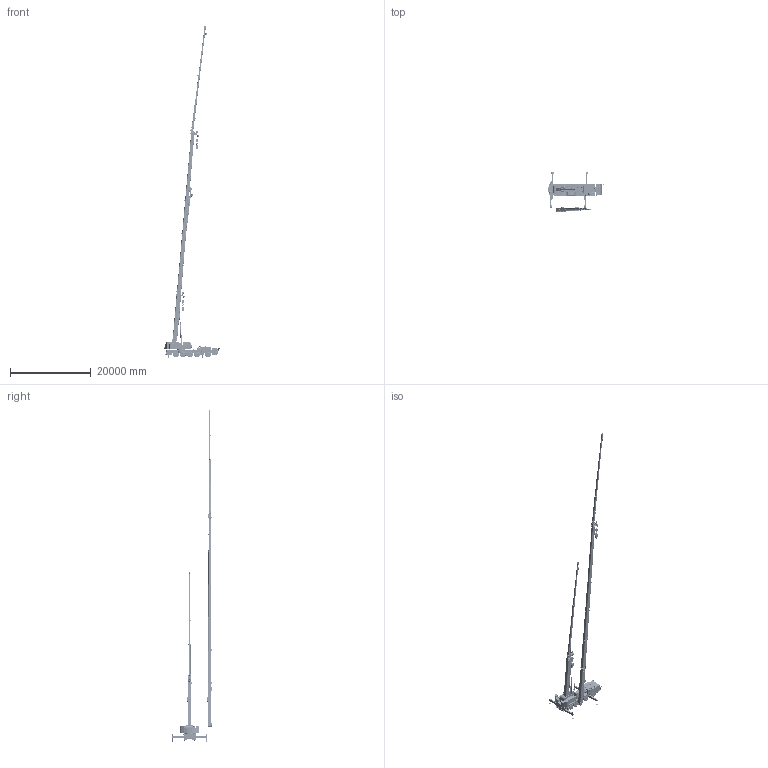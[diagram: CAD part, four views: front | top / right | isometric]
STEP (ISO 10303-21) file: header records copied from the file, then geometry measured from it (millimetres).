
FILE_DESCRIPTION(('CATIA V5 STEP Exchange','CAx-IF Rec.Pracs.--- Model Styling and Organization---1.4--- 2014-01-23'),'2;1');
FILE_NAME('\\Iba001\cad\CR\HP用CADデータ\721_803\KA-1300R 3D.stp','2019-05-20T00:00:24+00:00',('none'),('none'),'CATIA Version 5-6 Release 2017 SP5 HF19','CATIA V5 STEP AP214','none');
FILE_SCHEMA(('AUTOMOTIVE_DESIGN { 1 0 10303 214 1 1 1 1 }'));
Products named in the file (53): KA-1300R 3D; KA-1300R UPPER; 721 Table; 721 Cab Tilt; 721 Cab; 721 Mashine Room; 721 m.r-RS; 721 m.r-LS; 721 Counter Weight; 721 Base; 721 w.c-8; 721 w.c; 721 w.c-L; 721 w.c-R; 721 w.c-821; KA-1300R BOOM; KA-1300R BOOM Min; KA-1300R BOOM_1; KA-1300R BOOM_2; KA-1300R BOOM_3; KA-1300R BOOM_4; KA-1300R BOOM_5; KA-1300R BOOM_6; KA-1300R BASE BRACKET; KA-1300R JIB; KA1300R JIB BASE BRACKET; KA-1300R JIB XYZ; KA-1300R JIB DERRIKC CYL TUBE; KA-1300R JIB DERRIKC CYL ROD; KA-1300R JIB_1; KA-1300R JIB_2; KA-1300R JIB_3; KA-1300R JIB_4; KA-1300R BOOM Max ; KA-1300R CARRIER; KA-1300R CHASSIS; KA-1300R CAB; KA-1300R R-BUMPER; KA-1300R Beam-F; KA-1300R Beam-F OUTER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
Assembly tree (76 placements, depth 4):
  KA-1300R 3D
    KA-1300R UPPER
      721 Table
      721 Cab Tilt
      721 Cab
      721 Mashine Room
        721 m.r-RS
        721 m.r-LS
      721 Counter Weight
        721 Base
        721 w.c-8
        721 w.c
        721 w.c-L
        721 w.c-R
        721 w.c-821
    KA-1300R BOOM
      KA-1300R BOOM Min
        KA-1300R BOOM_1
        KA-1300R BOOM_2
        KA-1300R BOOM_3
        KA-1300R BOOM_4
        KA-1300R BOOM_5
        KA-1300R BOOM_6
        KA-1300R BASE BRACKET
      KA-1300R JIB  x2
        KA1300R JIB BASE BRACKET
        KA-1300R JIB XYZ
        KA-1300R JIB DERRIKC CYL TUBE
        KA-1300R JIB DERRIKC CYL ROD
        KA-1300R JIB_1
        KA-1300R JIB_2
        KA-1300R JIB_3
        KA-1300R JIB_4
      KA-1300R BOOM Max 
        KA-1300R BOOM_1
        KA-1300R BOOM_2
        KA-1300R BOOM_3
        KA-1300R BOOM_4
        KA-1300R BOOM_5
        KA-1300R BOOM_6
        KA-1300R BASE BRACKET
    KA-1300R CARRIER
      KA-1300R CHASSIS
      KA-1300R CAB
      KA-1300R R-BUMPER
      KA-1300R Beam-F  x2
        KA-1300R Beam-F OUTER
        KA-1300R Beam-F INNER
        KA-1300R Beam-F cyl
      KA-1300R Beam-R  x2
        KA-1300R Beam-R OUTER
        KA-1300R Beam-R INNER
        KA-1300R Beam-R cyl
      KA-1300R Tire-ASM
        445/95R25  x10
    821 Hook 7.8  x4
    821 Hook 70  x2
    821 Hook 50  x2
    721 c.d-1
    721 c.d-2
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Bounding box: 13701.07 x 10166.2 x 82394.61 mm (x, y, z)
Volume: 159915485842.7 mm3; surface area: 1063711634.5 mm2
Topology: 391 solids, 397 shells, 11237 faces, 27656 edges, 17399 vertices
Faces by surface type: plane 5857, cylinder 2930, torus 876, cone 609, bspline 486, extrusion 314, sphere 111, revolution 54
Entity records: 260220 total; most frequent: CARTESIAN_POINT 106224, ORIENTED_EDGE 34774, DIRECTION 24594, EDGE_CURVE 17351, VERTEX_POINT 10976, VECTOR 9916, LINE 9750, AXIS2_PLACEMENT_3D 9508
